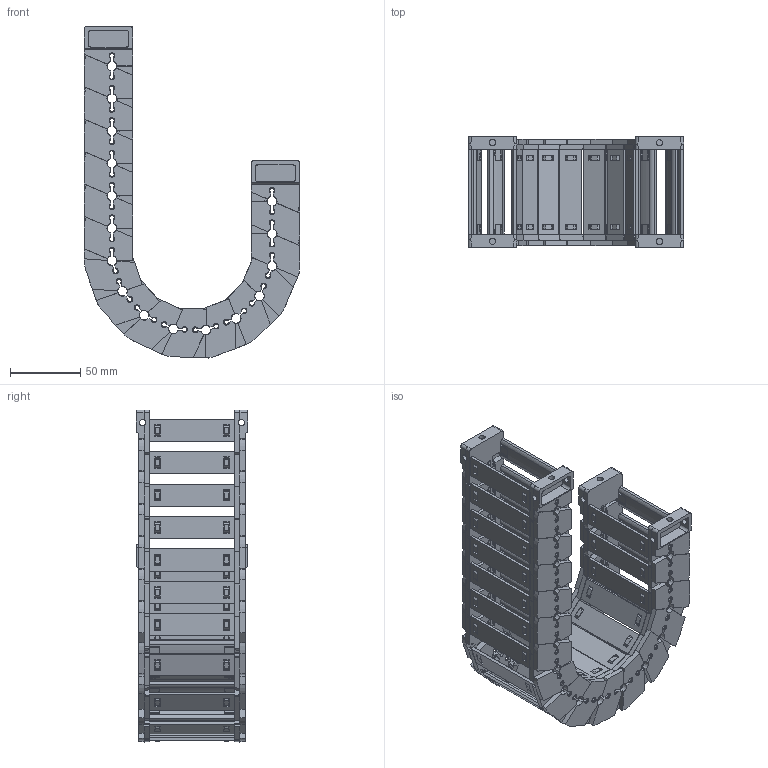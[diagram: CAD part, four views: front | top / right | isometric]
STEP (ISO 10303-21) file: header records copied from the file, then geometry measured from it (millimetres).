
FILE_DESCRIPTION((''),'2;1');
FILE_NAME('JY-28X60-R55_ASM','2026-03-26T08:18:12',('admin'),(''),'CREO PARAMETRIC BY PTC INC, 2021023','CREO PARAMETRIC BY PTC INC, 2021023','');
FILE_SCHEMA(('CONFIG_CONTROL_DESIGN'));
Length unit declared in the file: millimetre
Products named in the file (11): 28XL-L; 25-35XL-YP; 28XL-R; ASM0001_ASM; 28-LTT-A-L; 28-LTT-A-R; 28XL-LTT-A_ASM; 28-LTT-B-L; 28-LTT-B-R; 28XL-LTT-B_ASM; JY-28X60-R55_ASM
Assembly tree (29 placements, depth 3):
  JY-28X60-R55_ASM
    ASM0001_ASM  x15
      28XL-L
      25-35XL-YP
      28XL-R
    28XL-LTT-A_ASM
      28-LTT-A-L
      25-35XL-YP  x2
      28-LTT-A-R
    28XL-LTT-B_ASM
      28-LTT-B-L
      25-35XL-YP  x2
      28-LTT-B-R
Bounding box: 153.11 x 79 x 235.62 mm (x, y, z)
Volume: 275918.5 mm3; surface area: 201145.5 mm2
Topology: 68 solids, 68 shells, 5486 faces, 16300 edges, 10882 vertices
Faces by surface type: plane 3597, cone 973, cylinder 796, bspline 120
Entity records: 29071 total; most frequent: CARTESIAN_POINT 9487, ORIENTED_EDGE 4352, DIRECTION 3649, EDGE_CURVE 2176, VERTEX_POINT 1454, VECTOR 1365, LINE 1365, AXIS2_PLACEMENT_3D 1142
